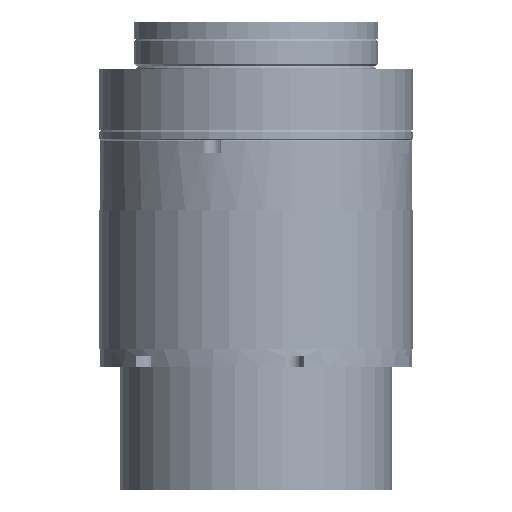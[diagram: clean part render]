
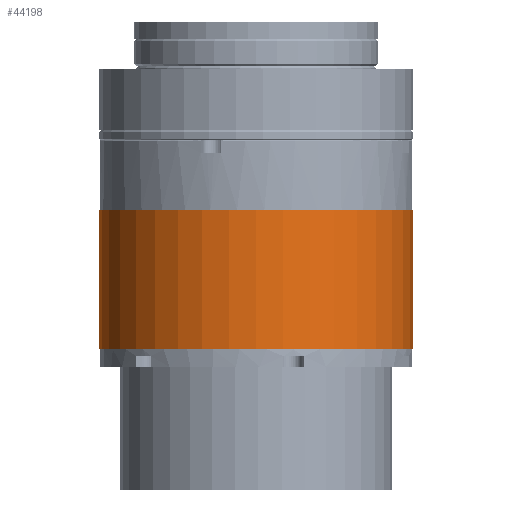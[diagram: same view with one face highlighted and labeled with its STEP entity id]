
A CAD part, left-side view. The second image highlights one B-rep face of the part: STEP entity #44198.
In plain terms, the highlighted cylindrical face has radius 45 mm (diameter 90 mm), a partial arc.
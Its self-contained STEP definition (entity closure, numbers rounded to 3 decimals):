
#1950 = DIRECTION ( 'NONE',  ( 0., -1., 0. ) ) ;
#12245 = VECTOR ( 'NONE', #48898, 1000. ) ;
#37365 = AXIS2_PLACEMENT_3D ( 'NONE', #71073, #352294, #1950 ) ;
#42879 = AXIS2_PLACEMENT_3D ( 'NONE', #188281, #127418, #257483 ) ;
#44198 = ADVANCED_FACE ( 'NONE', ( #392587 ), #266680, .T. ) ;
#48898 = DIRECTION ( 'NONE',  ( 0., 0., 1. ) ) ;
#52999 = CARTESIAN_POINT ( 'NONE',  ( -20.939, -61.176, -21.109 ) ) ;
#58357 = EDGE_CURVE ( 'NONE', #350576, #174829, #115181, .T. ) ;
#71073 = CARTESIAN_POINT ( 'NONE',  ( -20.939, -16.176, -33. ) ) ;
#74294 = CARTESIAN_POINT ( 'NONE',  ( -20.939, -61.176, -33. ) ) ;
#109934 = CIRCLE ( 'NONE', #42879, 45. ) ;
#115181 = LINE ( 'NONE', #243138, #195694 ) ;
#115774 = EDGE_LOOP ( 'NONE', ( #398054, #234272, #213689, #204469 ) ) ;
#127418 = DIRECTION ( 'NONE',  ( 0., 0., 1. ) ) ;
#143298 = LINE ( 'NONE', #52999, #12245 ) ;
#174281 = DIRECTION ( 'NONE',  ( 0., -1., 0. ) ) ;
#174829 = VERTEX_POINT ( 'NONE', #218641 ) ;
#188281 = CARTESIAN_POINT ( 'NONE',  ( -20.939, -16.176, -73. ) ) ;
#195694 = VECTOR ( 'NONE', #343729, 1000. ) ;
#203716 = DIRECTION ( 'NONE',  ( 0., 0., 1. ) ) ;
#204469 = ORIENTED_EDGE ( 'NONE', *, *, #214610, .F. ) ;
#204648 = VERTEX_POINT ( 'NONE', #74294 ) ;
#209573 = AXIS2_PLACEMENT_3D ( 'NONE', #235182, #203716, #174281 ) ;
#213689 = ORIENTED_EDGE ( 'NONE', *, *, #341005, .T. ) ;
#214610 = EDGE_CURVE ( 'NONE', #174829, #204648, #378118, .T. ) ;
#218641 = CARTESIAN_POINT ( 'NONE',  ( -20.939, 28.824, -33. ) ) ;
#231871 = VERTEX_POINT ( 'NONE', #411338 ) ;
#234272 = ORIENTED_EDGE ( 'NONE', *, *, #401332, .T. ) ;
#235182 = CARTESIAN_POINT ( 'NONE',  ( -20.939, -16.176, -21.109 ) ) ;
#243138 = CARTESIAN_POINT ( 'NONE',  ( -20.939, 28.824, -21.109 ) ) ;
#257483 = DIRECTION ( 'NONE',  ( 0., -1., 0. ) ) ;
#261748 = CARTESIAN_POINT ( 'NONE',  ( -20.939, 28.824, -73. ) ) ;
#266680 = CYLINDRICAL_SURFACE ( 'NONE', #209573, 45. ) ;
#341005 = EDGE_CURVE ( 'NONE', #231871, #204648, #143298, .T. ) ;
#343729 = DIRECTION ( 'NONE',  ( 0., 0., 1. ) ) ;
#350576 = VERTEX_POINT ( 'NONE', #261748 ) ;
#352294 = DIRECTION ( 'NONE',  ( 0., 0., 1. ) ) ;
#378118 = CIRCLE ( 'NONE', #37365, 45. ) ;
#392587 = FACE_OUTER_BOUND ( 'NONE', #115774, .T. ) ;
#398054 = ORIENTED_EDGE ( 'NONE', *, *, #58357, .F. ) ;
#401332 = EDGE_CURVE ( 'NONE', #350576, #231871, #109934, .T. ) ;
#411338 = CARTESIAN_POINT ( 'NONE',  ( -20.939, -61.176, -73. ) ) ;
